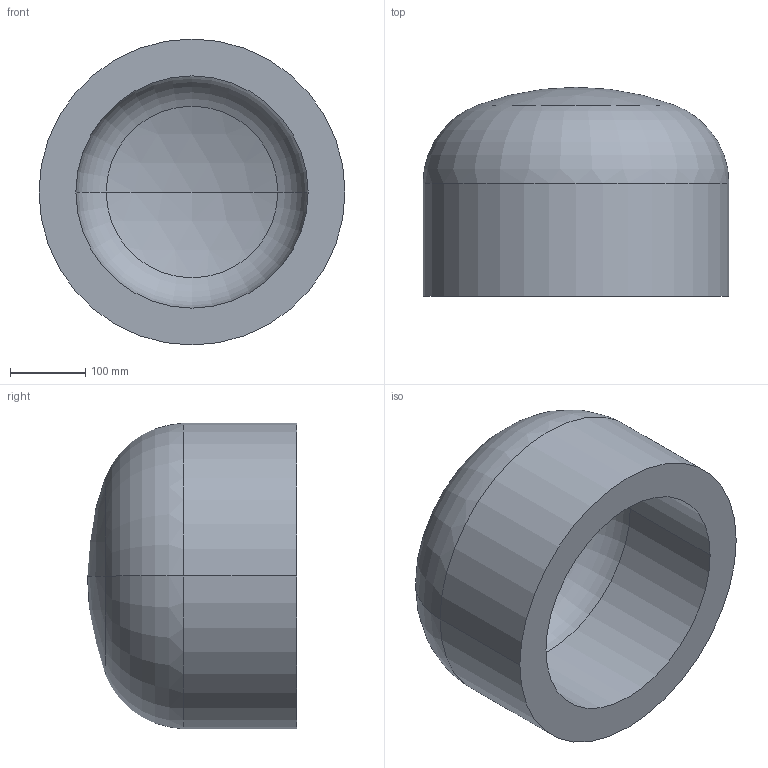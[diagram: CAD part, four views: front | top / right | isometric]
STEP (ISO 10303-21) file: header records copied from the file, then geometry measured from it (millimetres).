
FILE_DESCRIPTION (( 'STEP AP203' ), '1' );
FILE_NAME ('DIN 28013 Korbbogenform_-_Boden DIN 28013 - 406,4 x 150 - I - s=49.step', '2016-07-01T07:51:31', ( '' ), ( '' ), 'SwSTEP 2.0', 'SolidWorks 2013', '' );
FILE_SCHEMA (( 'CONFIG_CONTROL_DESIGN' ));
Length unit declared in the file: millimetre
Products named in the file (1): DIN 28013 Korbbogenform_-_Boden DIN 28013 - 406,4 x 150 - I - s=49
Bounding box: 406.4 x 277.69 x 406.4 mm (x, y, z)
Volume: 15835776 mm3; surface area: 706404.3 mm2
Topology: 1 solids, 1 shells, 13 faces, 24 edges, 14 vertices
Faces by surface type: torus 4, cylinder 4, sphere 4, plane 1
Entity records: 407 total; most frequent: DIRECTION 72, CARTESIAN_POINT 52, ORIENTED_EDGE 48, AXIS2_PLACEMENT_3D 34, EDGE_CURVE 24, CIRCLE 20, VERTEX_POINT 14, EDGE_LOOP 14
